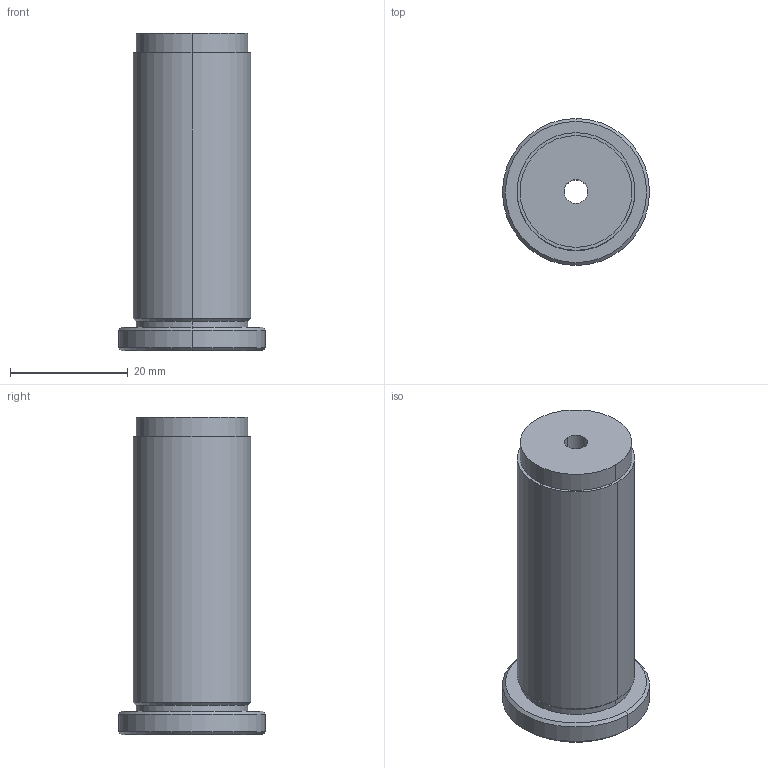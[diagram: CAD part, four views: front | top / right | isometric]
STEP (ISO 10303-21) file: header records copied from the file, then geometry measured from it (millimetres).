
FILE_DESCRIPTION(('no description'),'unknown implementation level');
FILE_NAME('solidnVK_CumJKqAeuaut_805jsSqh9w_1.STP',' ',('CIMSOURCE GmbH'),('CADClick - KiM GmbH - www.kimweb.de'),'unknown preprocess','ACIS','unknown authorization');
FILE_SCHEMA(('automotive_design'));
Length unit declared in the file: millimetre
Products named in the file (1): NOCUT
Bounding box: 25 x 25 x 54 mm (x, y, z)
Volume: 16832.1 mm3; surface area: 5076.7 mm2
Topology: 1 solids, 1 shells, 32 faces, 73 edges, 46 vertices
Faces by surface type: cylinder 17, plane 9, cone 6
Entity records: 1889 total; most frequent: CARTESIAN_POINT 257, DIRECTION 172, STYLED_ITEM 152, PRESENTATION_STYLE_ASSIGNMENT 152, COLOUR_RGB 152, ORIENTED_EDGE 146, EDGE_CURVE 73, CURVE_STYLE 73
